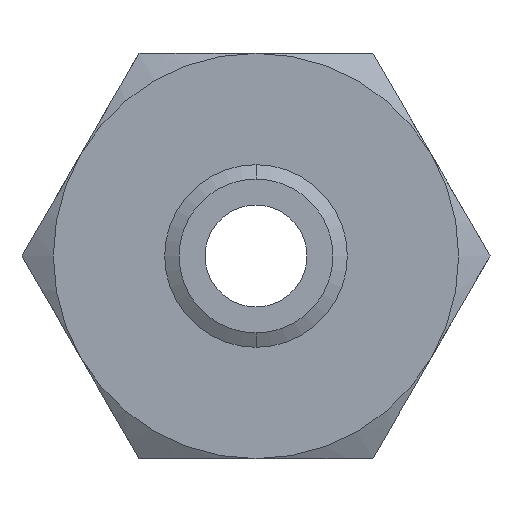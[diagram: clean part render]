
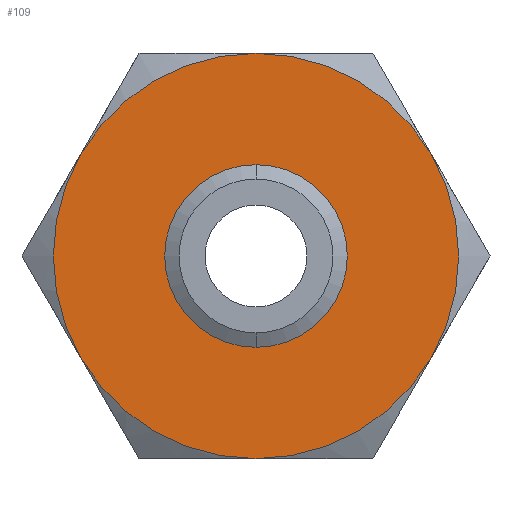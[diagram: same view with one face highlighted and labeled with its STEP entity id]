
A CAD part, front view. The second image highlights one B-rep face of the part: STEP entity #109.
In plain terms, the highlighted planar face has unit normal (0, -1, 0).
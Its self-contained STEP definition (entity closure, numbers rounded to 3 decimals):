
#105 = EDGE_CURVE ( 'NONE', #107, #156, #738, .T. ) ;
#106 = ORIENTED_EDGE ( 'NONE', *, *, #124, .F. ) ;
#107 = VERTEX_POINT ( 'NONE', #733 ) ;
#108 = ORIENTED_EDGE ( 'NONE', *, *, #105, .F. ) ;
#109 = ADVANCED_FACE ( 'NONE', ( #732, #731 ), #730, .F. ) ;
#118 = ORIENTED_EDGE ( 'NONE', *, *, #444, .F. ) ;
#119 = VERTEX_POINT ( 'NONE', #719 ) ;
#120 = ORIENTED_EDGE ( 'NONE', *, *, #121, .F. ) ;
#121 = EDGE_CURVE ( 'NONE', #119, #442, #718, .T. ) ;
#122 = VERTEX_POINT ( 'NONE', #713 ) ;
#124 = EDGE_CURVE ( 'NONE', #122, #107, #775, .T. ) ;
#156 = VERTEX_POINT ( 'NONE', #798 ) ;
#161 = ORIENTED_EDGE ( 'NONE', *, *, #166, .F. ) ;
#166 = EDGE_CURVE ( 'NONE', #156, #256, #783, .T. ) ;
#174 = EDGE_LOOP ( 'NONE', ( #161, #108, #106, #503, #120, #118 ) ) ;
#256 = VERTEX_POINT ( 'NONE', #985 ) ;
#442 = VERTEX_POINT ( 'NONE', #1466 ) ;
#443 = EDGE_CURVE ( 'NONE', #442, #122, #1453, .T. ) ;
#444 = EDGE_CURVE ( 'NONE', #256, #119, #1447, .T. ) ;
#469 = EDGE_CURVE ( 'NONE', #2458, #2476, #1527, .T. ) ;
#470 = ORIENTED_EDGE ( 'NONE', *, *, #469, .F. ) ;
#474 = EDGE_LOOP ( 'NONE', ( #475, #470 ) ) ;
#475 = ORIENTED_EDGE ( 'NONE', *, *, #2473, .F. ) ;
#503 = ORIENTED_EDGE ( 'NONE', *, *, #443, .F. ) ;
#713 = CARTESIAN_POINT ( 'NONE',  ( -67.117, 0., -38.75 ) ) ;
#714 = DIRECTION ( 'NONE',  ( 0., 0., 1. ) ) ;
#715 = DIRECTION ( 'NONE',  ( 0., 1., 0. ) ) ;
#716 = CARTESIAN_POINT ( 'NONE',  ( 0., 0., 0. ) ) ;
#717 = AXIS2_PLACEMENT_3D ( 'NONE', #716, #715, #714 ) ;
#718 = CIRCLE ( 'NONE', #717, 77.5 ) ;
#719 = CARTESIAN_POINT ( 'NONE',  ( 67.117, 0., -38.75 ) ) ;
#725 = DIRECTION ( 'NONE',  ( 0., 0., 1. ) ) ;
#726 = DIRECTION ( 'NONE',  ( 0., 1., 0. ) ) ;
#727 = CARTESIAN_POINT ( 'NONE',  ( 44.745, 0., -77.5 ) ) ;
#728 = AXIS2_PLACEMENT_3D ( 'NONE', #727, #726, #725 ) ;
#730 = PLANE ( 'NONE',  #728 ) ;
#731 = FACE_BOUND ( 'NONE', #474, .T. ) ;
#732 = FACE_OUTER_BOUND ( 'NONE', #174, .T. ) ;
#733 = CARTESIAN_POINT ( 'NONE',  ( -67.117, 0., 38.75 ) ) ;
#734 = DIRECTION ( 'NONE',  ( 0., 0., 1. ) ) ;
#735 = DIRECTION ( 'NONE',  ( 0., 1., 0. ) ) ;
#736 = CARTESIAN_POINT ( 'NONE',  ( 0., 0., 0. ) ) ;
#737 = AXIS2_PLACEMENT_3D ( 'NONE', #736, #735, #734 ) ;
#738 = CIRCLE ( 'NONE', #737, 77.5 ) ;
#771 = DIRECTION ( 'NONE',  ( 0., 0., 1. ) ) ;
#772 = DIRECTION ( 'NONE',  ( 0., 1., 0. ) ) ;
#773 = CARTESIAN_POINT ( 'NONE',  ( 0., 0., 0. ) ) ;
#774 = AXIS2_PLACEMENT_3D ( 'NONE', #773, #772, #771 ) ;
#775 = CIRCLE ( 'NONE', #774, 77.5 ) ;
#779 = DIRECTION ( 'NONE',  ( 0., 0., 1. ) ) ;
#780 = DIRECTION ( 'NONE',  ( 0., 1., 0. ) ) ;
#781 = CARTESIAN_POINT ( 'NONE',  ( 0., 0., 0. ) ) ;
#782 = AXIS2_PLACEMENT_3D ( 'NONE', #781, #780, #779 ) ;
#783 = CIRCLE ( 'NONE', #782, 77.5 ) ;
#798 = CARTESIAN_POINT ( 'NONE',  ( 0., 0., 77.5 ) ) ;
#985 = CARTESIAN_POINT ( 'NONE',  ( 67.117, 0., 38.75 ) ) ;
#1444 = DIRECTION ( 'NONE',  ( 0., 0., 1. ) ) ;
#1445 = DIRECTION ( 'NONE',  ( 0., 1., 0. ) ) ;
#1446 = AXIS2_PLACEMENT_3D ( 'NONE', #1454, #1445, #1444 ) ;
#1447 = CIRCLE ( 'NONE', #1446, 77.5 ) ;
#1448 = DIRECTION ( 'NONE',  ( 0., 0., 1. ) ) ;
#1450 = DIRECTION ( 'NONE',  ( 0., 1., 0. ) ) ;
#1451 = CARTESIAN_POINT ( 'NONE',  ( 0., 0., 0. ) ) ;
#1452 = AXIS2_PLACEMENT_3D ( 'NONE', #1451, #1450, #1448 ) ;
#1453 = CIRCLE ( 'NONE', #1452, 77.5 ) ;
#1454 = CARTESIAN_POINT ( 'NONE',  ( 0., 0., 0. ) ) ;
#1466 = CARTESIAN_POINT ( 'NONE',  ( 0., 0., -77.5 ) ) ;
#1524 = DIRECTION ( 'NONE',  ( 0., 0., -1. ) ) ;
#1525 = DIRECTION ( 'NONE',  ( 0., -1., 0. ) ) ;
#1526 = AXIS2_PLACEMENT_3D ( 'NONE', #1532, #1525, #1524 ) ;
#1527 = CIRCLE ( 'NONE', #1526, 29.426 ) ;
#1532 = CARTESIAN_POINT ( 'NONE',  ( 0., 0., 0. ) ) ;
#2091 = DIRECTION ( 'NONE',  ( 0., 0., -1. ) ) ;
#2092 = DIRECTION ( 'NONE',  ( 0., -1., 0. ) ) ;
#2093 = CARTESIAN_POINT ( 'NONE',  ( 0., 0., 0. ) ) ;
#2094 = AXIS2_PLACEMENT_3D ( 'NONE', #2093, #2092, #2091 ) ;
#2095 = CIRCLE ( 'NONE', #2094, 29.426 ) ;
#2110 = CARTESIAN_POINT ( 'NONE',  ( 0., 0., 29.426 ) ) ;
#2142 = CARTESIAN_POINT ( 'NONE',  ( 0., 0., -29.426 ) ) ;
#2458 = VERTEX_POINT ( 'NONE', #2110 ) ;
#2473 = EDGE_CURVE ( 'NONE', #2476, #2458, #2095, .T. ) ;
#2476 = VERTEX_POINT ( 'NONE', #2142 ) ;
